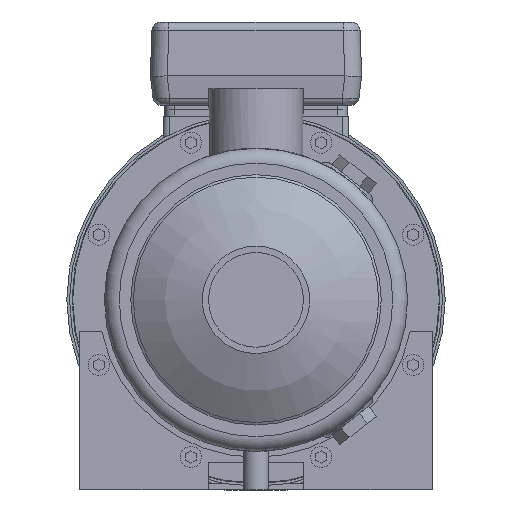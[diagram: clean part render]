
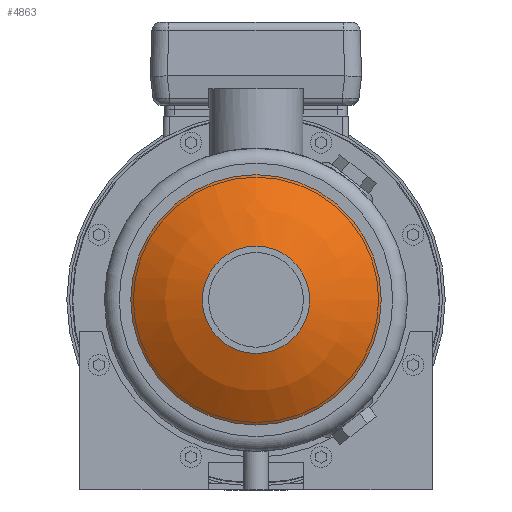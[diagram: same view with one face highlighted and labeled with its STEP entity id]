
A CAD part, left-side view. The second image highlights one B-rep face of the part: STEP entity #4863.
In plain terms, the highlighted spherical face has radius 100 mm.
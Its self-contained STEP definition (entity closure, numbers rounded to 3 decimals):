
#87=SPHERICAL_SURFACE('',#6537,100.);
#1105=ORIENTED_EDGE('',*,*,#2450,.T.);
#1106=ORIENTED_EDGE('',*,*,#2449,.F.);
#2449=EDGE_CURVE('',#3126,#3126,#3589,.T.);
#2450=EDGE_CURVE('',#3127,#3127,#3590,.T.);
#3126=VERTEX_POINT('',#8759);
#3127=VERTEX_POINT('',#8762);
#3589=CIRCLE('',#6536,25.4);
#3590=CIRCLE('',#6538,59.25);
#3814=EDGE_LOOP('',(#1105));
#3815=EDGE_LOOP('',(#1106));
#4256=FACE_BOUND('',#3814,.T.);
#4257=FACE_BOUND('',#3815,.T.);
#4863=ADVANCED_FACE('',(#4256,#4257),#87,.T.);
#6536=AXIS2_PLACEMENT_3D('',#8758,#7142,#7143);
#6537=AXIS2_PLACEMENT_3D('',#8760,#7144,#7145);
#6538=AXIS2_PLACEMENT_3D('',#8761,#7146,#7147);
#7142=DIRECTION('',(-1.,0.,0.));
#7143=DIRECTION('',(0.,0.,1.));
#7144=DIRECTION('',(-1.,0.,0.));
#7145=DIRECTION('',(0.,0.,1.));
#7146=DIRECTION('',(-1.,0.,0.));
#7147=DIRECTION('',(0.,0.,1.));
#8758=CARTESIAN_POINT('',(-172.02,0.,0.));
#8759=CARTESIAN_POINT('',(-172.02,0.,25.4));
#8760=CARTESIAN_POINT('',(-75.3,0.,0.));
#8761=CARTESIAN_POINT('',(-155.857,0.,0.));
#8762=CARTESIAN_POINT('',(-155.857,0.,59.25));
